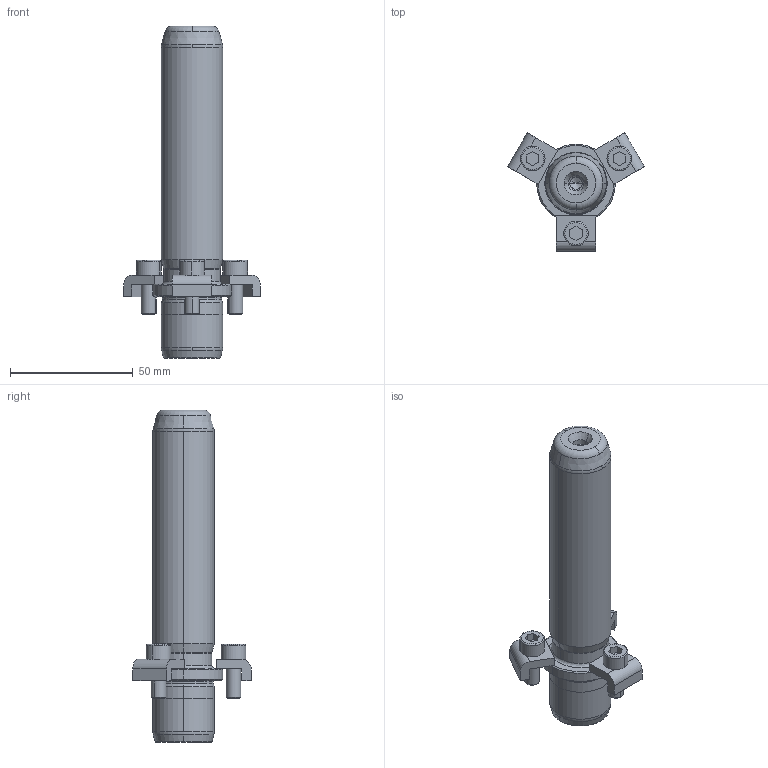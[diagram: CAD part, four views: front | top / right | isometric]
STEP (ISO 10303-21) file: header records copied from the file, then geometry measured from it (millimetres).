
FILE_DESCRIPTION((''),'2;1');
FILE_NAME('P21_025_110.stp','2008-12-23T09:49:35',(''),(''),'Mechanical Desktop 2009','Mechanical Desktop 2009',', , ');
FILE_SCHEMA(('CONFIG_CONTROL_DESIGN'));
Length unit declared in the file: millimetre
Products named in the file (2): Product; blmdl1
Assembly tree (1 placements, depth 2):
  Product
    blmdl1
Bounding box: 55.58 x 48.13 x 135 mm (x, y, z)
Volume: 70665.5 mm3; surface area: 17235.3 mm2
Topology: 7 solids, 7 shells, 163 faces, 417 edges, 269 vertices
Faces by surface type: plane 59, cylinder 44, cone 32, torus 14, bspline 14
Entity records: 5679 total; most frequent: CARTESIAN_POINT 1511, DIRECTION 914, ORIENTED_EDGE 826, EDGE_CURVE 413, AXIS2_PLACEMENT_3D 362, VERTEX_POINT 269, CIRCLE 211, VECTOR 190
